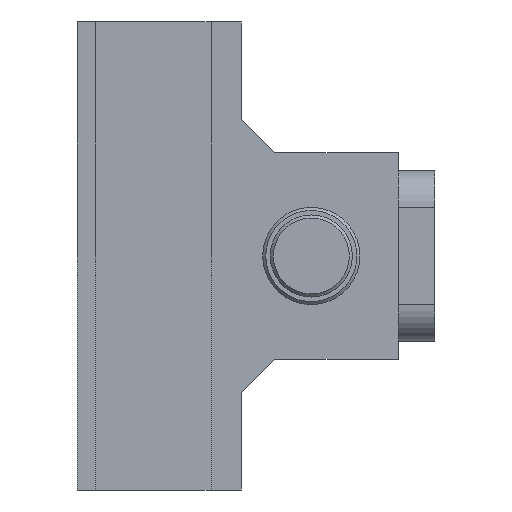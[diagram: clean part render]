
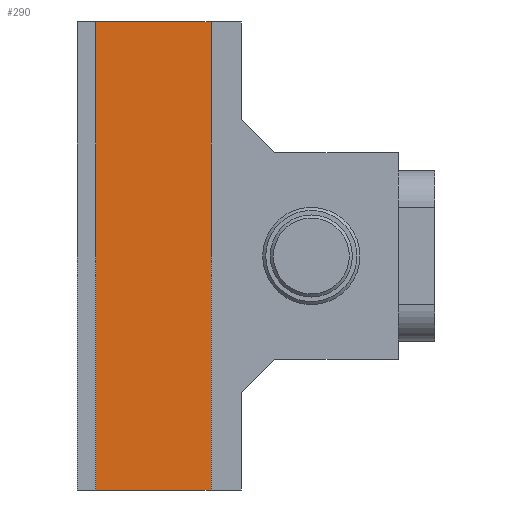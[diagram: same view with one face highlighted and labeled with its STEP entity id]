
A CAD part, left-side view. The second image highlights one B-rep face of the part: STEP entity #290.
In plain terms, the highlighted planar face has unit normal (-1, 0, 0).
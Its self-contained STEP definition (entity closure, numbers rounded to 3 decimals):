
#146 = EDGE_CURVE ( 'NONE', #1750, #289, #1202, .T. ) ;
#289 = VERTEX_POINT ( 'NONE', #878 ) ;
#290 = ADVANCED_FACE ( 'NONE', ( #1680 ), #2467, .F. ) ;
#554 = AXIS2_PLACEMENT_3D ( 'NONE', #688, #1512, #1347 ) ;
#558 = VECTOR ( 'NONE', #2357, 1000. ) ;
#590 = VERTEX_POINT ( 'NONE', #2062 ) ;
#688 = CARTESIAN_POINT ( 'NONE',  ( -11.5, 62., 38.5 ) ) ;
#803 = ORIENTED_EDGE ( 'NONE', *, *, #986, .F. ) ;
#823 = CARTESIAN_POINT ( 'NONE',  ( -11.5, 62., -38.5 ) ) ;
#878 = CARTESIAN_POINT ( 'NONE',  ( -11.5, 43., -38.5 ) ) ;
#928 = LINE ( 'NONE', #1344, #558 ) ;
#978 = CARTESIAN_POINT ( 'NONE',  ( -11.5, 62., 38.5 ) ) ;
#986 = EDGE_CURVE ( 'NONE', #2367, #289, #1728, .T. ) ;
#1033 = VECTOR ( 'NONE', #2320, 1000. ) ;
#1054 = EDGE_CURVE ( 'NONE', #590, #2367, #1334, .T. ) ;
#1137 = ORIENTED_EDGE ( 'NONE', *, *, #146, .T. ) ;
#1149 = EDGE_LOOP ( 'NONE', ( #1436, #1137, #803, #2559 ) ) ;
#1202 = LINE ( 'NONE', #823, #2241 ) ;
#1307 = EDGE_CURVE ( 'NONE', #590, #1750, #928, .T. ) ;
#1334 = LINE ( 'NONE', #978, #1033 ) ;
#1344 = CARTESIAN_POINT ( 'NONE',  ( -11.5, 62., 38.5 ) ) ;
#1347 = DIRECTION ( 'NONE',  ( 0., 1., 0. ) ) ;
#1418 = VECTOR ( 'NONE', #1679, 1000. ) ;
#1436 = ORIENTED_EDGE ( 'NONE', *, *, #1307, .T. ) ;
#1512 = DIRECTION ( 'NONE',  ( 1., 0., 0. ) ) ;
#1679 = DIRECTION ( 'NONE',  ( 0., 0., -1. ) ) ;
#1680 = FACE_OUTER_BOUND ( 'NONE', #1149, .T. ) ;
#1728 = LINE ( 'NONE', #1876, #1418 ) ;
#1733 = CARTESIAN_POINT ( 'NONE',  ( -11.5, 43., 38.5 ) ) ;
#1750 = VERTEX_POINT ( 'NONE', #2057 ) ;
#1876 = CARTESIAN_POINT ( 'NONE',  ( -11.5, 43., 38.5 ) ) ;
#2057 = CARTESIAN_POINT ( 'NONE',  ( -11.5, 62., -38.5 ) ) ;
#2062 = CARTESIAN_POINT ( 'NONE',  ( -11.5, 62., 38.5 ) ) ;
#2241 = VECTOR ( 'NONE', #2581, 1000. ) ;
#2320 = DIRECTION ( 'NONE',  ( 0., -1., 0. ) ) ;
#2357 = DIRECTION ( 'NONE',  ( 0., 0., -1. ) ) ;
#2367 = VERTEX_POINT ( 'NONE', #1733 ) ;
#2467 = PLANE ( 'NONE',  #554 ) ;
#2559 = ORIENTED_EDGE ( 'NONE', *, *, #1054, .F. ) ;
#2581 = DIRECTION ( 'NONE',  ( 0., -1., 0. ) ) ;
